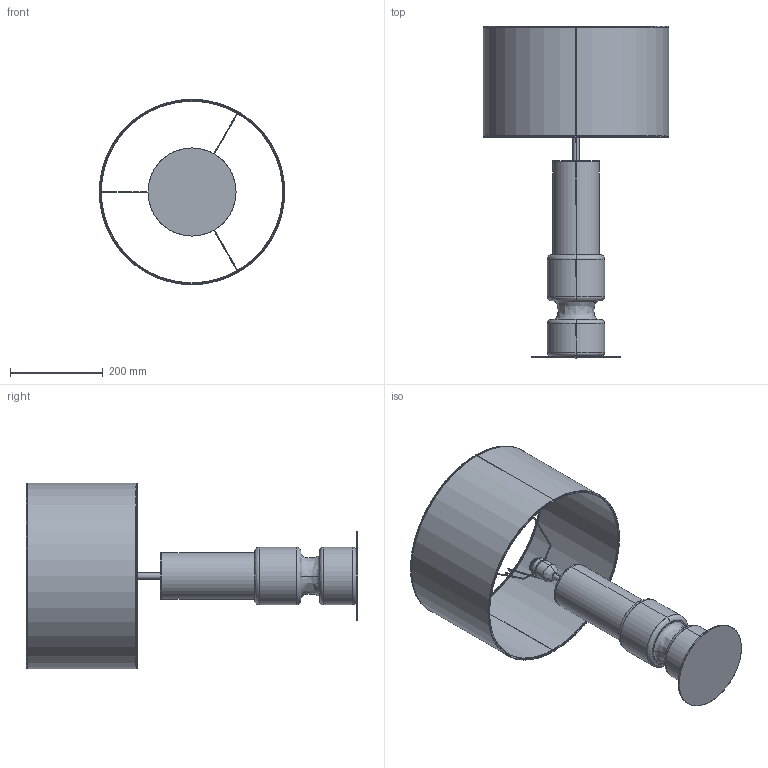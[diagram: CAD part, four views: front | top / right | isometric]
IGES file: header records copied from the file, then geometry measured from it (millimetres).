
Start section: SolidWorks IGES file using analytic representation for surfaces
Global section: file name: C:\Users\Agus\Desktop\Libreria modelos\NAC104\NAC104.IGS; native system: SolidWorks 2016; preprocessor: SolidWorks 2016; author: Agus; date: 170609.101245; units: millimetre
Bounding box: 400 x 716 x 400 mm (x, y, z)
Surface area: 899880.4 mm2 (no closed solid volume)
Topology: 0 solids, 0 shells, 172 faces, 4015 edges, 3999 vertices
Faces by surface type: revolution 109, bspline 63
